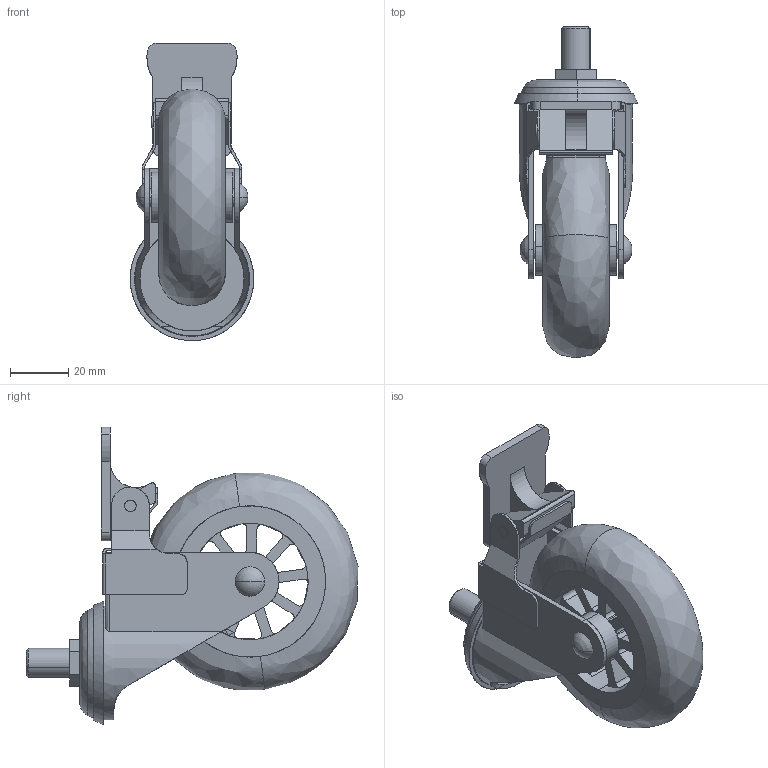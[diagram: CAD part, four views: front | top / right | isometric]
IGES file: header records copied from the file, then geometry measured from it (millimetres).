
Start section: SolidWorks IGES file using analytic representation for surfaces
Bounding box: 42.48 x 114.15 x 102.24 mm (x, y, z)
Surface area: 45058.9 mm2 (no closed solid volume)
Topology: 0 solids, 0 shells, 249 faces, 3988 edges, 3985 vertices
Faces by surface type: bspline 131, revolution 118
